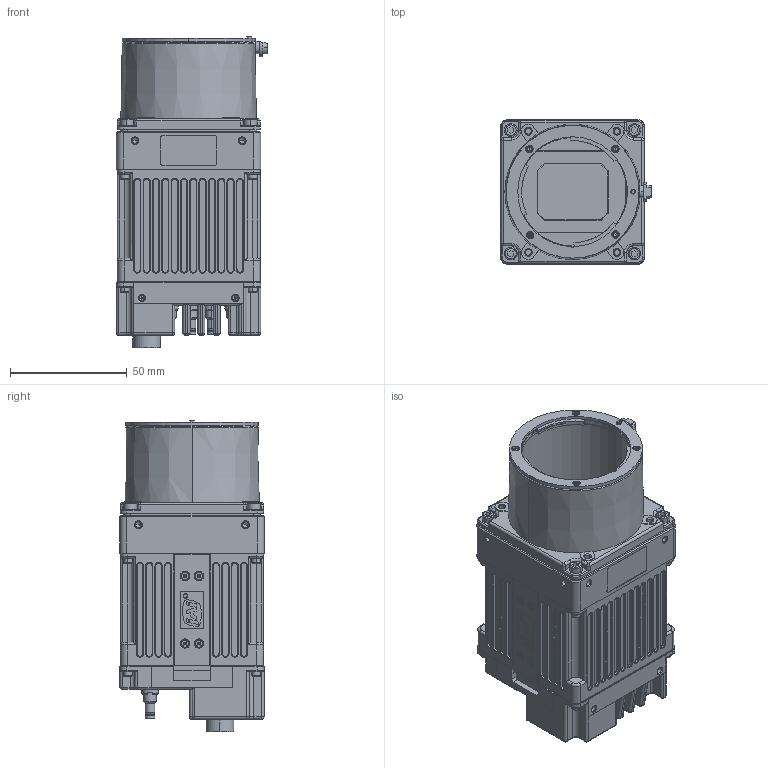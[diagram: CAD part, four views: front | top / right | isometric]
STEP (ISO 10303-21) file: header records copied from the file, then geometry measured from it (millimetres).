
FILE_DESCRIPTION((''),'2;1');
FILE_NAME('SP-12000-CXP4_2015_11_19','2015-11-19T',('aso'),(''),'PRO/ENGINEER BY PARAMETRIC TECHNOLOGY CORPORATION, 2014200','PRO/ENGINEER BY PARAMETRIC TECHNOLOGY CORPORATION, 2014200','');
FILE_SCHEMA(('CONFIG_CONTROL_DESIGN'));
Products named in the file (1): SP-12000-CXP4_2015_11_19
Bounding box: 64.9 x 62 x 133.6 mm (x, y, z)
Volume: 113144.8 mm3; surface area: 89284.7 mm2
Topology: 4 solids, 60 shells, 5191 faces, 13715 edges, 8795 vertices
Faces by surface type: plane 3172, cylinder 1163, cone 567, torus 151, sphere 116, bspline 22
Entity records: 161785 total; most frequent: CARTESIAN_POINT 32596, ORIENTED_EDGE 27076, DIRECTION 26504, EDGE_CURVE 13538, VECTOR 9352, LINE 9352, VERTEX_POINT 8795, AXIS2_PLACEMENT_3D 8576
